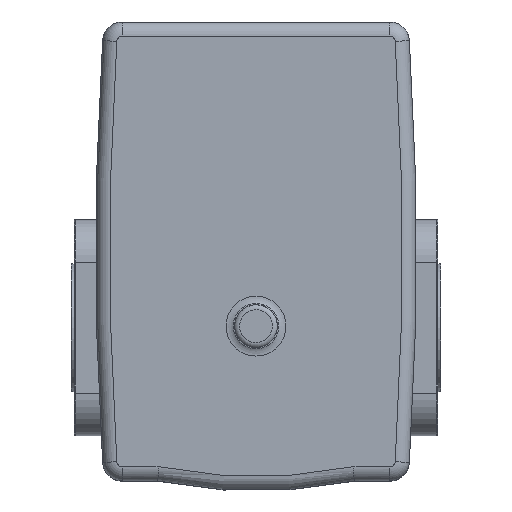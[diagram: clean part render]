
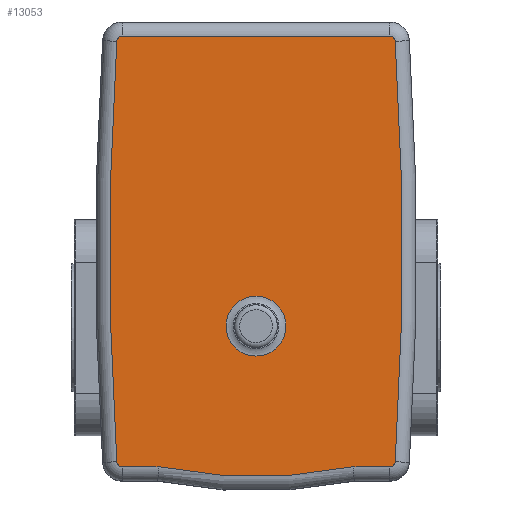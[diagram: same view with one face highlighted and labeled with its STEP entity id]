
A CAD part, top view. The second image highlights one B-rep face of the part: STEP entity #13053.
In plain terms, the highlighted planar face has unit normal (0, 0, 1).
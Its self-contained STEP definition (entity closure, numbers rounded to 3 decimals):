
#1431=LINE('',#27915,#2147);
#1432=LINE('',#27919,#2148);
#1433=LINE('',#27927,#2149);
#2147=VECTOR('',#21157,1000.);
#2148=VECTOR('',#21160,1000.);
#2149=VECTOR('',#21167,1000.);
#5303=ORIENTED_EDGE('',*,*,#7599,.T.);
#5304=ORIENTED_EDGE('',*,*,#7600,.T.);
#5305=ORIENTED_EDGE('',*,*,#7601,.T.);
#5306=ORIENTED_EDGE('',*,*,#7602,.T.);
#5307=ORIENTED_EDGE('',*,*,#7603,.T.);
#5308=ORIENTED_EDGE('',*,*,#7604,.T.);
#5309=ORIENTED_EDGE('',*,*,#7605,.T.);
#5310=ORIENTED_EDGE('',*,*,#7606,.T.);
#5311=ORIENTED_EDGE('',*,*,#7607,.T.);
#5312=ORIENTED_EDGE('',*,*,#7608,.T.);
#5313=ORIENTED_EDGE('',*,*,#7609,.T.);
#7599=EDGE_CURVE('',#8927,#8927,#9882,.T.);
#7600=EDGE_CURVE('',#8928,#8929,#9883,.F.);
#7601=EDGE_CURVE('',#8929,#8930,#1431,.F.);
#7602=EDGE_CURVE('',#8930,#8931,#9884,.F.);
#7603=EDGE_CURVE('',#8931,#8932,#1432,.F.);
#7604=EDGE_CURVE('',#8932,#8933,#9885,.F.);
#7605=EDGE_CURVE('',#8933,#8934,#9886,.F.);
#7606=EDGE_CURVE('',#8934,#8935,#9887,.F.);
#7607=EDGE_CURVE('',#8935,#8936,#1433,.F.);
#7608=EDGE_CURVE('',#8936,#8937,#9888,.F.);
#7609=EDGE_CURVE('',#8937,#8928,#9889,.F.);
#8927=VERTEX_POINT('',#27911);
#8928=VERTEX_POINT('',#27913);
#8929=VERTEX_POINT('',#27914);
#8930=VERTEX_POINT('',#27916);
#8931=VERTEX_POINT('',#27918);
#8932=VERTEX_POINT('',#27920);
#8933=VERTEX_POINT('',#27922);
#8934=VERTEX_POINT('',#27924);
#8935=VERTEX_POINT('',#27926);
#8936=VERTEX_POINT('',#27928);
#8937=VERTEX_POINT('',#27930);
#9882=CIRCLE('',#17699,10.521);
#9883=CIRCLE('',#17700,1.964);
#9884=CIRCLE('',#17701,169.964);
#9885=CIRCLE('',#17702,1.964);
#9886=CIRCLE('',#17703,1096.964);
#9887=CIRCLE('',#17704,1.964);
#9888=CIRCLE('',#17705,1.964);
#9889=CIRCLE('',#17706,1096.964);
#10782=EDGE_LOOP('',(#5303));
#10783=EDGE_LOOP('',(#5304,#5305,#5306,#5307,#5308,#5309,#5310,#5311,#5312,
#5313));
#11829=FACE_BOUND('',#10782,.T.);
#11830=FACE_BOUND('',#10783,.T.);
#12286=PLANE('',#17698);
#13053=ADVANCED_FACE('',(#11829,#11830),#12286,.F.);
#17698=AXIS2_PLACEMENT_3D('',#27909,#21151,#21152);
#17699=AXIS2_PLACEMENT_3D('',#27910,#21153,#21154);
#17700=AXIS2_PLACEMENT_3D('',#27912,#21155,#21156);
#17701=AXIS2_PLACEMENT_3D('',#27917,#21158,#21159);
#17702=AXIS2_PLACEMENT_3D('',#27921,#21161,#21162);
#17703=AXIS2_PLACEMENT_3D('',#27923,#21163,#21164);
#17704=AXIS2_PLACEMENT_3D('',#27925,#21165,#21166);
#17705=AXIS2_PLACEMENT_3D('',#27929,#21168,#21169);
#17706=AXIS2_PLACEMENT_3D('',#27931,#21170,#21171);
#21151=DIRECTION('',(0.,0.,-1.));
#21152=DIRECTION('',(-1.,0.,0.));
#21153=DIRECTION('',(0.,0.,-1.));
#21154=DIRECTION('',(-1.,0.,0.));
#21155=DIRECTION('',(0.,0.,-1.));
#21156=DIRECTION('',(-1.,0.,0.));
#21157=DIRECTION('',(0.,1.,0.));
#21158=DIRECTION('',(0.,0.,-1.));
#21159=DIRECTION('',(-1.,0.,0.));
#21160=DIRECTION('',(0.,1.,0.));
#21161=DIRECTION('',(0.,0.,-1.));
#21162=DIRECTION('',(-1.,0.,0.));
#21163=DIRECTION('',(0.,0.,-1.));
#21164=DIRECTION('',(-1.,0.,0.));
#21165=DIRECTION('',(0.,0.,-1.));
#21166=DIRECTION('',(-1.,0.,0.));
#21167=DIRECTION('',(0.,-1.,0.));
#21168=DIRECTION('',(0.,0.,-1.));
#21169=DIRECTION('',(-1.,0.,0.));
#21170=DIRECTION('',(0.,0.,-1.));
#21171=DIRECTION('',(-1.,0.,0.));
#27909=CARTESIAN_POINT('',(0.,0.,109.084));
#27910=CARTESIAN_POINT('',(0.,0.,109.084));
#27911=CARTESIAN_POINT('',(-10.521,0.,109.084));
#27912=CARTESIAN_POINT('',(-47.508,47.,109.084));
#27913=CARTESIAN_POINT('',(-47.64,48.96,109.084));
#27914=CARTESIAN_POINT('',(-49.472,47.,109.084));
#27915=CARTESIAN_POINT('',(-49.472,34.599,109.084));
#27916=CARTESIAN_POINT('',(-49.472,34.096,109.084));
#27917=CARTESIAN_POINT('',(117.037,0.,109.084));
#27918=CARTESIAN_POINT('',(-49.472,-34.096,109.084));
#27919=CARTESIAN_POINT('',(-49.472,-47.,109.084));
#27920=CARTESIAN_POINT('',(-49.472,-47.,109.084));
#27921=CARTESIAN_POINT('',(-47.508,-47.,109.084));
#27922=CARTESIAN_POINT('',(-47.64,-48.96,109.084));
#27923=CARTESIAN_POINT('',(26.246,1045.513,109.084));
#27924=CARTESIAN_POINT('',(100.132,-48.96,109.084));
#27925=CARTESIAN_POINT('',(100.,-47.,109.084));
#27926=CARTESIAN_POINT('',(101.964,-47.,109.084));
#27927=CARTESIAN_POINT('',(101.964,47.,109.084));
#27928=CARTESIAN_POINT('',(101.964,47.,109.084));
#27929=CARTESIAN_POINT('',(100.,47.,109.084));
#27930=CARTESIAN_POINT('',(100.132,48.96,109.084));
#27931=CARTESIAN_POINT('',(26.246,-1045.513,109.084));
